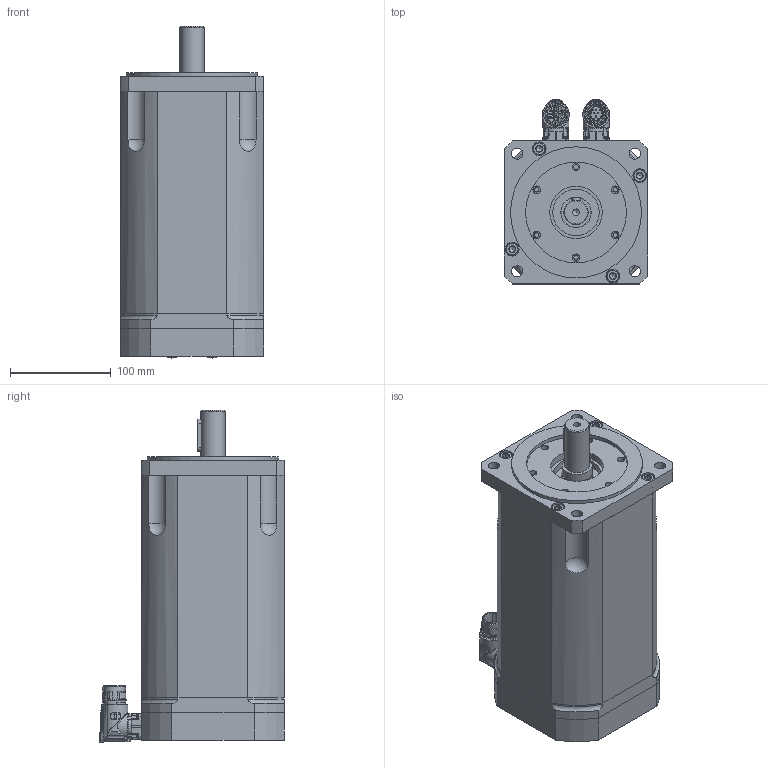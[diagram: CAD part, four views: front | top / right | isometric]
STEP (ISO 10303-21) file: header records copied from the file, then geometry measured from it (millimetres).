
FILE_DESCRIPTION(/* description */ (''),/* implementation_level */ '2;1');
FILE_NAME(/* name */ 'C:\Users\Public\Documents\Autodesk\Inventor LT 2014\Workspace\Motori Sito WEB\TG_5\STEP_DSM5_5x\DSM5_52_x197.stp',/* time_stamp */ '2021-03-31T14:16:43+02:00',/* author */ ('marcor'),/* organization */ (''),/* preprocessor_version */ 'ST-DEVELOPER v15.2',/* originating_system */ 'Autodesk Inventor LT ',/* authorisation */ '');
FILE_SCHEMA (('AUTOMOTIVE_DESIGN { 1 0 10303 214 3 1 1 }'));
Products named in the file (1): DSM5_52_x197
Bounding box: 142 x 183.5 x 329.41 mm (x, y, z)
Volume: 5108288.1 mm3; surface area: 339550.2 mm2
Topology: 16 solids, 32 shells, 1538 faces, 3983 edges, 2651 vertices
Faces by surface type: plane 536, cylinder 461, cone 319, bspline 113, torus 77, sphere 32
Full cylindrical faces by diameter (mm): 1.2 x12, 2.013 x8, 2.224 x8, 2.233 x6, 2.5 x8, 2.88 x8, 3.26 x8, 4.5 x8, 4.8 x8, 4.917 x4, 5.5 x3, 5.9 x2, 6 x4, 6.5 x4, 6.647 x9, 7.5 x6, 8 x8, 8.5 x8, 10 x4, 11 x8, 13 x8, 13.5 x8, 15.2 x1, 17.4 x3, 18 x1, 19.8 x1, 20 x2, 21.15 x4, 21.6 x1, 21.653 x2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
Entity records: 53954 total; most frequent: CARTESIAN_POINT 18246, ORIENTED_EDGE 7026, DIRECTION 6651, EDGE_CURVE 3513, AXIS2_PLACEMENT_3D 2710, VERTEX_POINT 2527, EDGE_LOOP 2084, ADVANCED_FACE 1538
